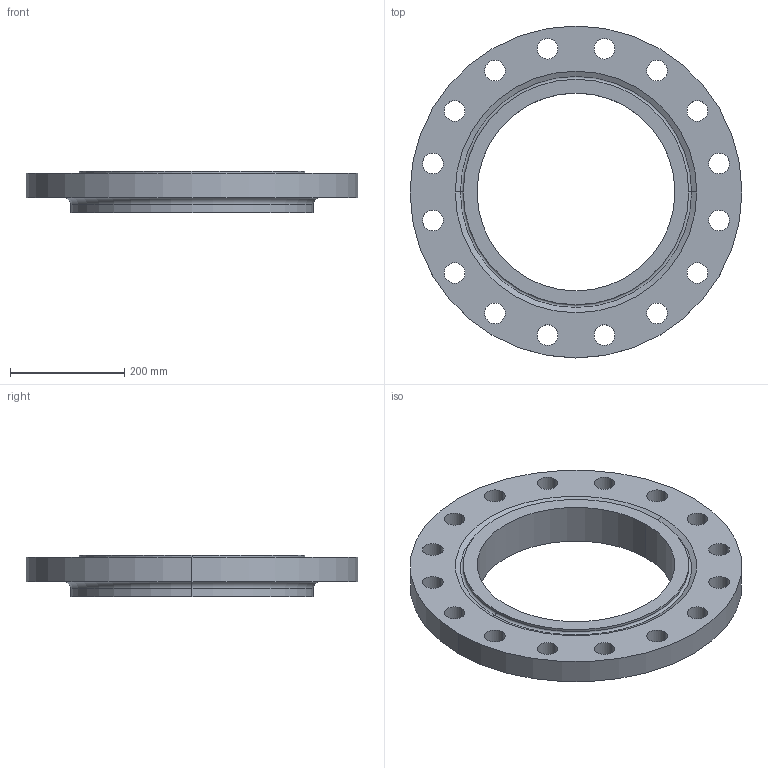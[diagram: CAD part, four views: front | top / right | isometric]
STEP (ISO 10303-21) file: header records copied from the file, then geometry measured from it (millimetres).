
FILE_DESCRIPTION (( 'STEP AP214' ), '1' );
FILE_NAME ('PN40 DN350 Type 13 - Type H Face.STEP', '2019-01-05T21:47:32', ( '' ), ( '' ), 'SwSTEP 2.0', 'SolidWorks 2019', '' );
FILE_SCHEMA (( 'AUTOMOTIVE_DESIGN' ));
Length unit declared in the file: millimetre
Products named in the file (1): PN40 DN350 Type 13 - Type H Face
Bounding box: 580 x 580 x 72 mm (x, y, z)
Volume: 7927410.5 mm3; surface area: 579926.1 mm2
Topology: 1 solids, 1 shells, 50 faces, 132 edges, 86 vertices
Faces by surface type: cylinder 40, torus 4, plane 4, cone 2
Entity records: 1700 total; most frequent: DIRECTION 324, CARTESIAN_POINT 269, ORIENTED_EDGE 264, AXIS2_PLACEMENT_3D 141, EDGE_CURVE 132, CIRCLE 90, VERTEX_POINT 86, EDGE_LOOP 86
